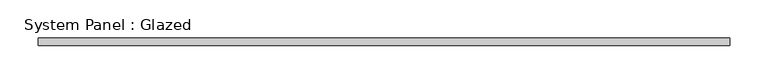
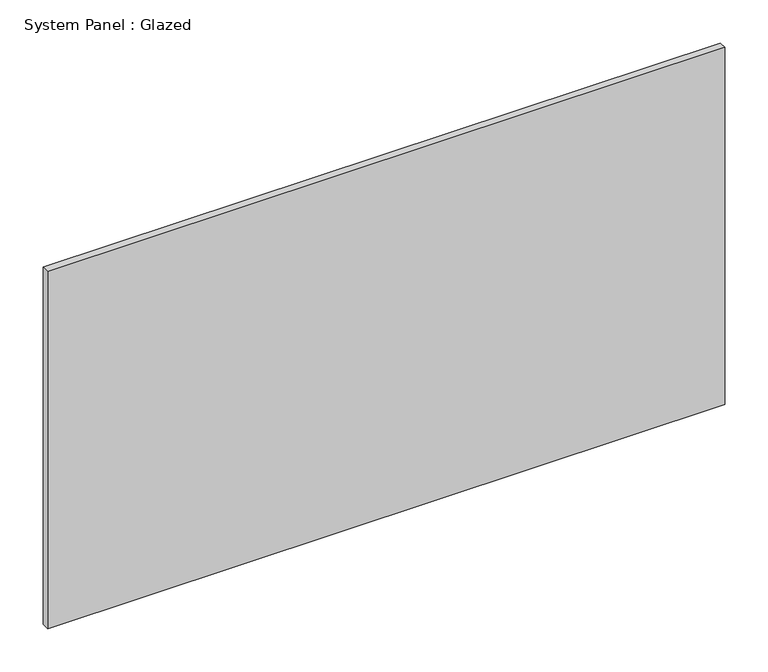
"""IFC4 building model written with IfcOpenShell, lengths in millimetres: plate geometry, System Panel : Glazed."""

from ifc_helpers import new_model, si_unit, origin, origin_with_axes, place, context, project, spatial, polyline, outline, extrude, source, transform, mapped, element, save


def system_panel_glazed_2cc111b0(model_context):
    return source(origin(), model_context, "Body", "SweptSolid", [
        extrude(outline(polyline([(452.6021733, -5.0), (-452.6021733, -5.0), (-452.6021733, 5.0), (452.6021733, 5.0), (452.6021733, -5.0)])), origin_with_axes(), (0.0, 0.0, 1.0), 505.0),
    ])


if __name__ == "__main__":
    model = new_model("IFC4")
    model_context = context("Model", 3, world=origin())
    ifc_project = project(units=[si_unit("LENGTHUNIT", "METRE", prefix="MILLI")], contexts=[model_context])
    site = spatial("IfcSite", under=ifc_project)
    building = spatial("IfcBuilding", under=site)
    placement = place(None, origin())
    system_panel_glazed_shape = system_panel_glazed_2cc111b0(model_context)
    element("IfcPlate", 1, ObjectType="System Panel : Glazed", at=placement, inside=building, context=model_context, shape_type="MappedRepresentation", body=[
        mapped(system_panel_glazed_shape, transform((0.0, 0.0, 0.0), x_axis=(1.0, 0.0, 0.0), y_axis=(0.0, 1.0, 0.0), z_axis=(0.0, 0.0, 1.0))),
    ])
    save(model, "model.ifc")
